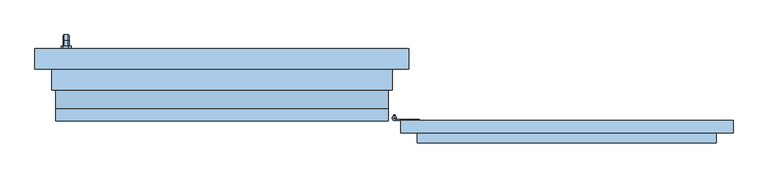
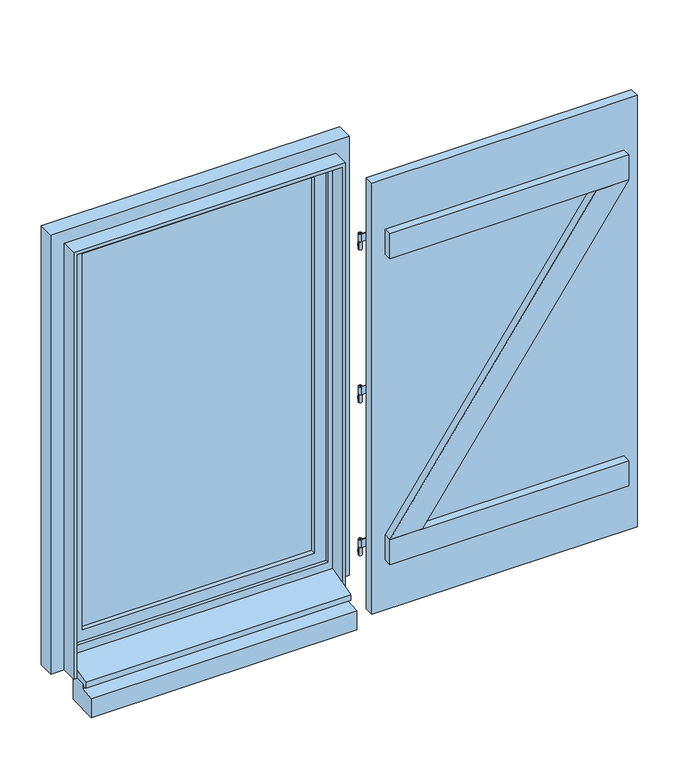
"""IFC4 building model written with IfcOpenShell, lengths in millimetres: window geometry, 1 Vantail droit - Volet et petits bois : 0.80m x 1.35m - Appui Béton."""

import ifcopenshell
import ifcopenshell.guid

model = None  # the IFC model being written
_history = None  # IfcOwnerHistory: only IFC2X3 demands one
_inside = {}  # id of a spatial element -> (the spatial element, [elements in it])
_under = {}  # id of a project, library or spatial element -> (it, [spatial elements below it])
_declared = {}  # id of a project -> (the project, [libraries it declares])
_typed = {}  # id of a type object -> (the type object, [elements of that type])
_made_of = {}  # id of a material, layer set ... -> (it, [elements and type objects made of it])


def new_model(schema):
    """Start an empty IFC model of exactly this schema.

    Asked for "IFC4X3", IfcOpenShell would pick the latest addendum, in which some entities
    have other attributes; the version numbers below select the first issue.
    IFC2X3 requires an IfcOwnerHistory on every rooted entity: one is made here for all.
    """
    global model, _history
    if schema == "IFC4X3":
        model = ifcopenshell.file(schema_version=(4, 3, 0, 0))
    else:
        model = ifcopenshell.file(schema=schema)
    _inside.clear()
    _under.clear()
    _declared.clear()
    _typed.clear()
    _made_of.clear()
    _history = None
    if model.schema == "IFC2X3":
        org = make("IfcOrganization", Name="unknown")
        user = make(
            "IfcPersonAndOrganization",
            ThePerson=make("IfcPerson", FamilyName="unknown"),
            TheOrganization=org,
        )
        app = make(
            "IfcApplication",
            ApplicationDeveloper=org,
            Version="unknown",
            ApplicationFullName="unknown",
            ApplicationIdentifier="unknown",
        )
        _history = make(
            "IfcOwnerHistory",
            OwningUser=user,
            OwningApplication=app,
            ChangeAction="ADDED",
            CreationDate=0,
        )
    return model


def make(cls, **values):
    """One entity of the class cls with the attributes given. An attribute that is None is left unset."""
    return model.create_entity(
        cls, **{name: value for name, value in values.items() if value is not None}
    )


def rooted(cls, **values):
    """An entity with a GlobalId (a new one), such as an element, a storey or a relation."""
    return make(cls, GlobalId=ifcopenshell.guid.new(), OwnerHistory=_history, **values)


def si_unit(unit_type, name, prefix=None):
    """IfcSIUnit, for example si_unit("LENGTHUNIT", "METRE", prefix="MILLI")."""
    return make("IfcSIUnit", UnitType=unit_type, Prefix=prefix, Name=name)


def assignment(units):
    """IfcUnitAssignment: the units of a project."""
    return None if units is None else make("IfcUnitAssignment", Units=units)


def point(xyz):
    """IfcCartesianPoint."""
    return None if xyz is None else make("IfcCartesianPoint", Coordinates=xyz)


def direction(xyz):
    """IfcDirection."""
    return None if xyz is None else make("IfcDirection", DirectionRatios=xyz)


def frame(location, z_axis=None, x_axis=None):
    """IfcAxis2Placement3D, a coordinate frame: its origin and axes. An axis left out is left unset."""
    return make(
        "IfcAxis2Placement3D",
        Location=point(location),
        Axis=direction(z_axis),
        RefDirection=direction(x_axis),
    )


def frame_2d(location, x_axis=None):
    """IfcAxis2Placement2D, a coordinate frame in the plane: its origin and x axis."""
    return make(
        "IfcAxis2Placement2D", Location=point(location), RefDirection=direction(x_axis)
    )


def origin():
    """The frame at (0, 0, 0) with its axes left unset."""
    return frame((0.0, 0.0, 0.0))


def place(relative_to, where):
    """IfcLocalPlacement: puts the frame where relative to a parent placement (None: the world)."""
    return make(
        "IfcLocalPlacement", PlacementRelTo=relative_to, RelativePlacement=where
    )


def context(
    kind, dimensions, precision=None, world=None, true_north=None, identifier=None
):
    """IfcGeometricRepresentationContext, for example the 3D "Model" context."""
    return make(
        "IfcGeometricRepresentationContext",
        ContextIdentifier=identifier,
        ContextType=kind,
        CoordinateSpaceDimension=dimensions,
        Precision=precision,
        WorldCoordinateSystem=world,
        TrueNorth=true_north,
    )


def project(units=None, contexts=None):
    """IfcProject with its units and contexts."""
    return rooted(
        "IfcProject",
        Name="project",
        RepresentationContexts=contexts,
        UnitsInContext=assignment(units),
    )


def spatial(cls, under=None, at=None, **own):
    """A site, building, storey or space (cls), placed at a placement, below another one or the project."""
    s = rooted(cls, ObjectPlacement=at, **own)
    if under is not None:
        _under.setdefault(under.id(), (under, []))[1].append(s)
    return s


def polyline(points):
    """IfcPolyline through the points."""
    return make("IfcPolyline", Points=[point(p) for p in points])


def circle_curve(where, radius):
    """IfcCircle in the frame where."""
    return make("IfcCircle", Position=where, Radius=radius)


def trimmed(basis, trim1, trim2, sense, master):
    """IfcTrimmedCurve: the piece of a basis curve between two trims."""
    return make(
        "IfcTrimmedCurve",
        BasisCurve=basis,
        Trim1=trim1,
        Trim2=trim2,
        SenseAgreement=sense,
        MasterRepresentation=master,
    )


def segment(curve, same_sense, transition):
    """IfcCompositeCurveSegment."""
    return make(
        "IfcCompositeCurveSegment",
        Transition=transition,
        SameSense=same_sense,
        ParentCurve=curve,
    )


def composite_curve(segments, self_intersect=None):
    """IfcCompositeCurve: segments joined end to end."""
    return make("IfcCompositeCurve", Segments=segments, SelfIntersect=self_intersect)


def outline(outer, holes=None, kind="AREA"):
    """IfcArbitraryClosedProfileDef: a profile drawn as a closed curve; with holes, ...WithVoids."""
    if holes is None:
        return make("IfcArbitraryClosedProfileDef", ProfileType=kind, OuterCurve=outer)
    return make(
        "IfcArbitraryProfileDefWithVoids",
        ProfileType=kind,
        OuterCurve=outer,
        InnerCurves=holes,
    )


def extrude(swept, where, along, depth):
    """IfcExtrudedAreaSolid: the profile swept, set in the frame where, extruded along a direction by depth."""
    return make(
        "IfcExtrudedAreaSolid",
        SweptArea=swept,
        Position=where,
        ExtrudedDirection=direction(along),
        Depth=depth,
    )


def faces_of(points, faces, orient=None, outer=None):
    """IfcFace entities. A face is a list of loops; a loop is a list of indices into points, from 0.

    orient and outer hold one flag for each loop. By default every Orientation is true, the
    first loop of a face is its IfcFaceOuterBound and the others are IfcFaceBound.
    """
    made = []
    for i, loops in enumerate(faces):
        bounds = []
        for j, loop in enumerate(loops):
            is_outer = j == 0 if outer is None else outer[i][j]
            bounds.append(
                make(
                    "IfcFaceOuterBound" if is_outer else "IfcFaceBound",
                    Bound=make("IfcPolyLoop", Polygon=[points[k] for k in loop]),
                    Orientation=True if orient is None else orient[i][j],
                )
            )
        made.append(make("IfcFace", Bounds=bounds))
    return made


def faceted_brep(points, faces, orient=None, outer=None, voids=None):
    """IfcFacetedBrep: a solid bounded by flat faces; with voids (closed shells), ...WithVoids."""
    shared = [point(p) for p in points]
    hull = make("IfcClosedShell", CfsFaces=faces_of(shared, faces, orient, outer))
    if voids is None:
        return make("IfcFacetedBrep", Outer=hull)
    return make(
        "IfcFacetedBrepWithVoids",
        Outer=hull,
        Voids=[
            make(cls, CfsFaces=faces_of(shared, fs, o, b)) for cls, fs, o, b in voids
        ],
    )


def shape(context_of_items, identifier, shape_type, items):
    """IfcShapeRepresentation: the items that make up one representation, for example the "Body"."""
    return make(
        "IfcShapeRepresentation",
        ContextOfItems=context_of_items,
        RepresentationIdentifier=identifier,
        RepresentationType=shape_type,
        Items=items,
    )


def source(mapping_origin, context_of_items, identifier, shape_type, items):
    """IfcRepresentationMap: a shape defined once, which mapped items show again and again."""
    return make(
        "IfcRepresentationMap",
        MappingOrigin=mapping_origin,
        MappedRepresentation=shape(context_of_items, identifier, shape_type, items),
    )


def transform(
    local_origin,
    x_axis=None,
    y_axis=None,
    z_axis=None,
    scale=None,
    scale2=None,
    scale3=None,
    uniform=True,
):
    """IfcCartesianTransformationOperator3D, or its non-uniform kind. x_axis, y_axis, z_axis: its Axis1, 2, 3."""
    if uniform:
        return make(
            "IfcCartesianTransformationOperator3D",
            Axis1=direction(x_axis),
            Axis2=direction(y_axis),
            LocalOrigin=point(local_origin),
            Scale=scale,
            Axis3=direction(z_axis),
        )
    return make(
        "IfcCartesianTransformationOperator3DnonUniform",
        Axis1=direction(x_axis),
        Axis2=direction(y_axis),
        LocalOrigin=point(local_origin),
        Scale=scale,
        Axis3=direction(z_axis),
        Scale2=scale2,
        Scale3=scale3,
    )


def mapped(mapping_source, mapping_target):
    """IfcMappedItem: shows the shape of a source again, moved by a transform."""
    return make(
        "IfcMappedItem", MappingSource=mapping_source, MappingTarget=mapping_target
    )


def made_of(thing, what):
    """Note that an element or type object is made of a material, layer set ...; save() writes the relation."""
    if what is not None:
        _made_of.setdefault(what.id(), (what, []))[1].append(thing)
    return thing


def element(
    cls,
    number,
    at=None,
    inside=None,
    cuts=None,
    type_object=None,
    material=None,
    context=None,
    identifier="Body",
    shape_type=None,
    held_by="IfcProductDefinitionShape",
    body=None,
    shapes=None,
    **own,
):
    """One element of the class cls, such as IfcWall. Its Tag is "e" and its number.

    at: its placement. inside: the storey or other place that contains it. cuts: it is an
    opening in that element (IfcRelVoidsElement). A single representation is given by context,
    identifier, shape_type and body (its items); several are given by shapes. held_by: the class
    of the entity that holds the representations. save() writes the other relations.
    """
    e = rooted(cls, Tag="e%d" % number, ObjectPlacement=at, **own)
    if body is not None:
        shapes = [shape(context, identifier, shape_type, body)]
    if shapes is not None:
        e.Representation = make(held_by, Representations=shapes)
    if inside is not None:
        _inside.setdefault(inside.id(), (inside, []))[1].append(e)
    if cuts is not None:
        rooted(
            "IfcRelVoidsElement", RelatingBuildingElement=cuts, RelatedOpeningElement=e
        )
    if type_object is not None:
        _typed.setdefault(type_object.id(), (type_object, []))[1].append(e)
    return made_of(e, material)


def aggregate(whole, parts):
    """IfcRelAggregates: a whole, such as a stair, and the parts it consists of."""
    return rooted("IfcRelAggregates", RelatingObject=whole, RelatedObjects=parts)


def save(model, path):
    """Write the relations noted so far, then the file.

    IfcRelAggregates (storeys below a building ...), IfcRelContainedInSpatialStructure (elements
    in a storey), IfcRelDefinesByType, IfcRelAssociatesMaterial and IfcRelDeclares: one each for
    every whole, place, type object, material and project.
    """
    for whole, parts in _under.values():
        aggregate(whole, parts)
    for where, things in _inside.values():
        rooted(
            "IfcRelContainedInSpatialStructure",
            RelatedElements=things,
            RelatingStructure=where,
        )
    for kind, things in _typed.values():
        rooted("IfcRelDefinesByType", RelatedObjects=things, RelatingType=kind)
    for what, things in _made_of.values():
        rooted("IfcRelAssociatesMaterial", RelatedObjects=things, RelatingMaterial=what)
    for by, libraries in _declared.values():
        rooted("IfcRelDeclares", RelatingContext=by, RelatedDefinitions=libraries)
    model.write(path)


def plane_surface(at):
    """IfcPlane: the flat surface through the origin of the frame at, square to its z axis."""
    return make("IfcPlane", Position=at)


def cylinder_surface(at, radius):
    """IfcCylindricalSurface: all points at the distance radius from the z axis of the frame at."""
    return make("IfcCylindricalSurface", Position=at, Radius=radius)


def advanced_brep(points, edges, surfaces, faces):
    """IfcAdvancedBrep: a solid bounded by faces that lie on surfaces and meet in shared edges.

    An edge is (start, end): straight between two places in points (the first is 0);
    or (start, end, curve); or (start, end, curve, False) where it runs against its curve.
    A face is (place in surfaces, loops), or (place, loops, False) where it looks against
    its surface's normal. A loop lists edges by number (the first is 1), with a minus sign
    where the edge is run from its end to its start. The first loop is the outer one.
    """
    corners = [point(p) for p in points]
    vertices = [make("IfcVertexPoint", VertexGeometry=c) for c in corners]
    made = []
    for start, end, *more in edges:
        made.append(
            make(
                "IfcEdgeCurve",
                EdgeStart=vertices[start],
                EdgeEnd=vertices[end],
                EdgeGeometry=more[0] if more else make("IfcPolyline", Points=[corners[start], corners[end]]),
                SameSense=more[1] if len(more) > 1 else True,
            )
        )
    hull = []
    for where, loops, *sense in faces:
        bounds = []
        for j, loop in enumerate(loops):
            ring = [make("IfcOrientedEdge", EdgeElement=made[abs(k) - 1], Orientation=k > 0) for k in loop]
            bounds.append(
                make(
                    "IfcFaceOuterBound" if j == 0 else "IfcFaceBound",
                    Bound=make("IfcEdgeLoop", EdgeList=ring),
                    Orientation=True,
                )
            )
        hull.append(make("IfcAdvancedFace", Bounds=bounds, FaceSurface=surfaces[where], SameSense=sense[0] if sense else True))
    return make("IfcAdvancedBrep", Outer=make("IfcClosedShell", CfsFaces=hull))


def window_595b25a0(model_context):
    return source(origin(), model_context, "Body", "SolidModel", [
        extrude(outline(polyline([(1230.0, -93.0), (1230.0, -123.0), (430.0, -123.0), (430.0, -93.0), (1230.0, -93.0)])), frame((0.0, 0.0, 775.0), z_axis=(0.0, 0.0, 1.0), x_axis=(1.0, 0.0, 0.0)), (0.0, 0.0, 1.0), 1375.0),
        advanced_brep(
        [(410.0, -88.0, 975.0), (420.0, -88.0, 975.0), (410.0, -88.0, 950.0), (420.0, -88.0, 950.0), (417.0, -83.4174243, 955.0), (417.0, -83.4174243, 965.0), (413.0, -83.4174243, 965.0), (413.0, -83.4174243, 955.0), (413.0, -80.0, 965.0), (417.0, -80.0, 965.0), (417.0, -80.0, 955.0), (413.0, -80.0, 955.0)],
        [
            (0, 1, circle_curve(frame((415.0, -88.0, 975.0), z_axis=(0.0, 0.0, 1.0), x_axis=(1.0, 0.0, 0.0)), 5.0)),
            (1, 0, circle_curve(frame((415.0, -88.0, 975.0), z_axis=(0.0, 0.0, 1.0), x_axis=(1.0, 0.0, 0.0)), 5.0)),
            (2, 3, circle_curve(frame((415.0, -88.0, 950.0), z_axis=(0.0, 0.0, -1.0), x_axis=(1.0, 0.0, 0.0)), 5.0)),
            (3, 2, circle_curve(frame((415.0, -88.0, 950.0), z_axis=(0.0, 0.0, -1.0), x_axis=(1.0, 0.0, 0.0)), 5.0)),
            (1, 3),
            (2, 0),
            (4, 5),
            (5, 6, circle_curve(frame((415.0, -88.0, 965.0), z_axis=(0.0, 0.0, 1.0), x_axis=(1.0, 0.0, 0.0)), 5.0)),
            (6, 7),
            (7, 4, circle_curve(frame((415.0, -88.0, 955.0), z_axis=(0.0, 0.0, -1.0), x_axis=(1.0, 0.0, 0.0)), 5.0)),
            (8, 6),
            (5, 9),
            (9, 8),
            (10, 4),
            (7, 11),
            (11, 10),
            (10, 9),
            (8, 11),
        ],
        [
            plane_surface(frame((420.0, -88.0, 975.0), z_axis=(0.0, 0.0, 1.0), x_axis=(0.0, -1.0, 0.0))),
            plane_surface(frame((420.0, -88.0, 950.0), z_axis=(0.0, 0.0, -1.0), x_axis=(0.0, 1.0, 0.0))),
            cylinder_surface(frame((415.0, -88.0, 950.0), z_axis=(0.0, 0.0, 1.0), x_axis=(1.0, 0.0, 0.0)), 5.0),
            plane_surface(frame((417.0, -80.0, 965.0), z_axis=(0.0, 0.0, 1.0), x_axis=(0.0, -1.0, 0.0))),
            plane_surface(frame((417.0, -80.0, 955.0), z_axis=(0.0, 0.0, -1.0), x_axis=(0.0, 1.0, 0.0))),
            plane_surface(frame((417.0, -80.0, 965.0), z_axis=(1.0, 0.0, 0.0), x_axis=(0.0, 0.0, -1.0))),
            plane_surface(frame((413.0, -85.0, 965.0), z_axis=(-1.0, 0.0, 0.0), x_axis=(0.0, 0.0, -1.0))),
            plane_surface(frame((413.0, -80.0, 965.0), z_axis=(0.0, 1.0, 0.0), x_axis=(0.0, 0.0, -1.0))),
        ],
        [
            (0, [[1, 2]]),
            (1, [[3, 4]]),
            (2, [[5, -3, 6, -2], [7, 8, 9, 10]]),
            (2, [[-6, -4, -5, -1]]),
            (3, [[11, -8, 12, 13]]),
            (4, [[14, -10, 15, 16]]),
            (5, [[-12, -7, -14, 17]]),
            (6, [[-15, -9, -11, 18]]),
            (7, [[-17, -16, -18, -13]]),
        ],
    ),
        extrude(outline(composite_curve([segment(trimmed(circle_curve(frame_2d((415.0, -88.0)), 5.0), [point((415.0, -93.0))], [point((420.0, -88.0))], False, "CARTESIAN"), True, "CONTINUOUS"), segment(polyline([(420.0, -88.0), (417.5, -88.0)]), True, "CONTINUOUS"), segment(trimmed(circle_curve(frame_2d((415.0, -88.0)), 2.5), [point((417.5, -88.0))], [point((415.0, -90.5))], True, "CARTESIAN"), True, "CONTINUOUS"), segment(polyline([(415.0, -90.5), (474.3092325, -90.5), (474.3092325, -93.0), (415.0, -93.0)]), True, "CONTINUOUS")], self_intersect=False)), frame((0.0, 0.0, 975.0), z_axis=(0.0, 0.0, 1.0), x_axis=(1.0, 0.0, 0.0)), (0.0, 0.0, 1.0), 25.0),
        extrude(outline(composite_curve([segment(trimmed(circle_curve(frame_2d((415.0, -88.0)), 2.5), [point((412.5, -88.0))], [point((417.5, -88.0))], False, "CARTESIAN"), True, "CONTINUOUS"), segment(trimmed(circle_curve(frame_2d((415.0, -88.0)), 2.5), [point((417.5, -88.0))], [point((412.5, -88.0))], False, "CARTESIAN"), True, "CONTINUOUS")], self_intersect=False)), frame((0.0, 0.0, 975.0), z_axis=(0.0, 0.0, 1.0), x_axis=(1.0, 0.0, 0.0)), (0.0, 0.0, 1.0), 25.0),
        advanced_brep(
        [(410.0, -88.0, 1950.0), (420.0, -88.0, 1950.0), (410.0, -88.0, 1925.0), (420.0, -88.0, 1925.0), (413.0, -83.4174243, 1940.0), (413.0, -83.4174243, 1930.0), (417.0, -83.4174243, 1930.0), (417.0, -83.4174243, 1940.0), (413.0, -80.0, 1940.0), (417.0, -80.0, 1940.0), (413.0, -80.0, 1930.0), (417.0, -80.0, 1930.0)],
        [
            (0, 1, circle_curve(frame((415.0, -88.0, 1950.0), z_axis=(0.0, 0.0, 1.0), x_axis=(1.0, 0.0, 0.0)), 5.0)),
            (1, 0, circle_curve(frame((415.0, -88.0, 1950.0), z_axis=(0.0, 0.0, 1.0), x_axis=(1.0, 0.0, 0.0)), 5.0)),
            (2, 3, circle_curve(frame((415.0, -88.0, 1925.0), z_axis=(0.0, 0.0, -1.0), x_axis=(1.0, 0.0, 0.0)), 5.0)),
            (3, 2, circle_curve(frame((415.0, -88.0, 1925.0), z_axis=(0.0, 0.0, -1.0), x_axis=(1.0, 0.0, 0.0)), 5.0)),
            (1, 3),
            (2, 0),
            (4, 5),
            (5, 6, circle_curve(frame((415.0, -88.0, 1930.0), z_axis=(0.0, 0.0, -1.0), x_axis=(1.0, 0.0, 0.0)), 5.0)),
            (6, 7),
            (7, 4, circle_curve(frame((415.0, -88.0, 1940.0), z_axis=(0.0, 0.0, 1.0), x_axis=(1.0, 0.0, 0.0)), 5.0)),
            (8, 4),
            (7, 9),
            (9, 8),
            (10, 11),
            (11, 6),
            (5, 10),
            (9, 11),
            (10, 8),
        ],
        [
            plane_surface(frame((420.0, -88.0, 1950.0), z_axis=(0.0, 0.0, 1.0), x_axis=(0.0, -1.0, 0.0))),
            plane_surface(frame((420.0, -88.0, 1925.0), z_axis=(0.0, 0.0, -1.0), x_axis=(0.0, 1.0, 0.0))),
            cylinder_surface(frame((415.0, -88.0, 1925.0), z_axis=(0.0, 0.0, 1.0), x_axis=(1.0, 0.0, 0.0)), 5.0),
            plane_surface(frame((413.0, -80.0, 1940.0), z_axis=(0.0, 0.0, 1.0), x_axis=(1.0, 0.0, 0.0))),
            plane_surface(frame((413.0, -80.0, 1930.0), z_axis=(0.0, 0.0, -1.0), x_axis=(-1.0, 0.0, 0.0))),
            plane_surface(frame((413.0, -80.0, 1940.0), z_axis=(0.0, 1.0, 0.0), x_axis=(0.0, 0.0, -1.0))),
            plane_surface(frame((417.0, -80.0, 1940.0), z_axis=(1.0, 0.0, 0.0), x_axis=(0.0, 0.0, -1.0))),
            plane_surface(frame((413.0, -83.4174243, 1940.0), z_axis=(-1.0, 0.0, 0.0), x_axis=(0.0, 0.0, -1.0))),
        ],
        [
            (0, [[1, 2]]),
            (1, [[3, 4]]),
            (2, [[5, -3, 6, -2], [7, 8, 9, 10]]),
            (2, [[-6, -4, -5, -1]]),
            (3, [[11, -10, 12, 13]]),
            (4, [[14, 15, -8, 16]]),
            (5, [[17, -14, 18, -13]]),
            (6, [[-9, -15, -17, -12]]),
            (7, [[-18, -16, -7, -11]]),
        ],
    ),
        extrude(outline(polyline([(413.0, -80.0), (417.0, -80.0), (417.0, -83.4174243), (413.0, -83.4174243), (413.0, -80.0)])), frame((0.0, 0.0, 1442.5), z_axis=(0.0, 0.0, 1.0), x_axis=(1.0, 0.0, 0.0)), (0.0, 0.0, 1.0), 10.0),
        extrude(outline(composite_curve([segment(trimmed(circle_curve(frame_2d((415.0, -88.0)), 5.0), [point((415.0, -93.0))], [point((420.0, -88.0))], False, "CARTESIAN"), True, "CONTINUOUS"), segment(polyline([(420.0, -88.0), (417.5, -88.0)]), True, "CONTINUOUS"), segment(trimmed(circle_curve(frame_2d((415.0, -88.0)), 2.5), [point((417.5, -88.0))], [point((412.5, -88.0))], True, "CARTESIAN"), True, "CONTINUOUS"), segment(trimmed(circle_curve(frame_2d((415.0, -88.0)), 2.5), [point((412.5, -88.0))], [point((415.0, -90.5))], True, "CARTESIAN"), True, "CONTINUOUS"), segment(polyline([(415.0, -90.5), (474.3092325, -90.5), (474.3092325, -93.0), (415.0, -93.0)]), True, "CONTINUOUS")], self_intersect=False)), frame((0.0, 0.0, 1462.5), z_axis=(0.0, 0.0, 1.0), x_axis=(1.0, 0.0, 0.0)), (0.0, 0.0, 1.0), 25.0),
        extrude(outline(composite_curve([segment(trimmed(circle_curve(frame_2d((415.0, -88.0)), 2.5), [point((412.5, -88.0))], [point((417.5, -88.0))], False, "CARTESIAN"), True, "CONTINUOUS"), segment(trimmed(circle_curve(frame_2d((415.0, -88.0)), 2.5), [point((417.5, -88.0))], [point((412.5, -88.0))], False, "CARTESIAN"), True, "CONTINUOUS")], self_intersect=False)), frame((0.0, 0.0, 1462.5), z_axis=(0.0, 0.0, 1.0), x_axis=(1.0, 0.0, 0.0)), (0.0, 0.0, 1.0), 25.0),
        extrude(outline(composite_curve([segment(trimmed(circle_curve(frame_2d((415.0, -88.0)), 5.0), [point((410.0, -88.0))], [point((420.0, -88.0))], False, "CARTESIAN"), True, "CONTINUOUS"), segment(trimmed(circle_curve(frame_2d((415.0, -88.0)), 5.0), [point((420.0, -88.0))], [point((410.0, -88.0))], False, "CARTESIAN"), True, "CONTINUOUS")], self_intersect=False)), frame((0.0, 0.0, 1437.5), z_axis=(0.0, 0.0, 1.0), x_axis=(1.0, 0.0, 0.0)), (0.0, 0.0, 1.0), 25.0),
        extrude(outline(composite_curve([segment(trimmed(circle_curve(frame_2d((415.0, -88.0)), 5.0), [point((415.0, -93.0))], [point((420.0, -88.0))], False, "CARTESIAN"), True, "CONTINUOUS"), segment(polyline([(420.0, -88.0), (417.5, -88.0)]), True, "CONTINUOUS"), segment(trimmed(circle_curve(frame_2d((415.0, -88.0)), 2.5), [point((417.5, -88.0))], [point((415.0, -90.5))], True, "CARTESIAN"), True, "CONTINUOUS"), segment(polyline([(415.0, -90.5), (474.3092325, -90.5), (474.3092325, -93.0), (415.0, -93.0)]), True, "CONTINUOUS")], self_intersect=False)), frame((0.0, 0.0, 1950.0), z_axis=(0.0, 0.0, 1.0), x_axis=(1.0, 0.0, 0.0)), (0.0, 0.0, 1.0), 25.0),
        extrude(outline(composite_curve([segment(trimmed(circle_curve(frame_2d((415.0, -88.0)), 2.5), [point((412.5, -88.0))], [point((417.5, -88.0))], False, "CARTESIAN"), True, "CONTINUOUS"), segment(trimmed(circle_curve(frame_2d((415.0, -88.0)), 2.5), [point((417.5, -88.0))], [point((412.5, -88.0))], False, "CARTESIAN"), True, "CONTINUOUS")], self_intersect=False)), frame((0.0, 0.0, 1950.0), z_axis=(0.0, 0.0, 1.0), x_axis=(1.0, 0.0, 0.0)), (0.0, 0.0, 1.0), 25.0),
        extrude(outline(polyline([(1910.0, 1190.0), (1910.0, 1092.5496543), (1015.0, 470.0007252), (1015.0, 567.4510709), (1910.0, 1190.0)])), frame((0.0, -148.0, 0.0), z_axis=(0.0, 1.0, 0.0), x_axis=(0.0, 0.0, 1.0)), (0.0, 0.0, 1.0), 25.0),
        extrude(outline(polyline([(470.0, -148.0), (470.0, -123.0), (1190.0, -123.0), (1190.0, -148.0), (470.0, -148.0)])), frame((0.0, 0.0, 1910.0), z_axis=(0.0, 0.0, 1.0), x_axis=(1.0, 0.0, 0.0)), (0.0, 0.0, 1.0), 80.0),
        extrude(outline(polyline([(470.0, -148.0), (470.0, -123.0), (1190.0, -123.0), (1190.0, -148.0), (470.0, -148.0)])), frame((0.0, 0.0, 935.0), z_axis=(0.0, 0.0, 1.0), x_axis=(1.0, 0.0, 0.0)), (0.0, 0.0, 1.0), 80.0),
        faceted_brep([(-369.3539903, 86.0, 1422.0339292), (-380.6460097, 86.0, 1422.0339292), (-382.0339292, 86.0, 1420.6460097), (-382.0339292, 86.0, 1409.3323012), (-380.6676988, 86.0, 1407.9660708), (-369.3323012, 86.0, 1407.9660708), (-367.9660708, 86.0, 1409.3323012), (-367.9660708, 86.0, 1420.6460097), (-367.9660708, 98.3386538, 1420.6460097), (-369.3539903, 98.9135489, 1422.0339292), (-367.9660708, 93.6523623, 1409.3323012), (-367.9660708, 100.3323012, 1402.6523623), (-367.9660708, 100.3323012, 1320.0), (-367.9660708, 111.6460097, 1320.0), (-367.9660708, 111.6460097, 1407.3386538), (-369.3323012, 93.0864511, 1407.9660708), (-380.6676988, 93.0864511, 1407.9660708), (-382.0339292, 93.6523623, 1409.3323012), (-382.0339292, 98.3386538, 1420.6460097), (-382.0339292, 111.6460097, 1407.3386538), (-382.0339292, 111.6460097, 1320.0), (-382.0339292, 100.3323012, 1320.0), (-382.0339292, 100.3323012, 1402.6523623), (-380.6460097, 98.9135489, 1422.0339292), (-369.3539903, 113.0339292, 1407.9135489), (-369.3323012, 98.9660708, 1402.0864511), (-380.6676988, 98.9660708, 1402.0864511), (-380.6460097, 113.0339292, 1407.9135489), (-369.3539903, 113.0339292, 1320.0), (-369.3323012, 98.9660708, 1320.0), (-380.6676988, 98.9660708, 1320.0), (-380.6460097, 113.0339292, 1320.0)], [[[0, 1, 2, 3, 4, 5, 6, 7]], [[7, 8, 9, 0]], [[6, 10, 11, 12, 13, 14, 8, 7]], [[5, 15, 10, 6]], [[4, 16, 15, 5]], [[3, 17, 16, 4]], [[2, 18, 19, 20, 21, 22, 17, 3]], [[1, 23, 18, 2]], [[0, 9, 23, 1]], [[8, 14, 24, 9]], [[15, 25, 11, 10]], [[16, 26, 25, 15]], [[17, 22, 26, 16]], [[23, 27, 19, 18]], [[9, 24, 27, 23]], [[28, 13, 12, 29, 30, 21, 20, 31]], [[14, 13, 28, 24]], [[25, 29, 12, 11]], [[26, 30, 29, 25]], [[22, 21, 30, 26]], [[27, 31, 20, 19]], [[24, 28, 31, 27]]]),
        extrude(outline(polyline([(1440.0, -368.0), (1440.0, -382.0), (1435.0, -387.0), (1365.0, -387.0), (1360.0, -382.0), (1360.0, -368.0), (1365.0, -363.0), (1435.0, -363.0), (1440.0, -368.0)])), frame((0.0, 80.0, 0.0), z_axis=(0.0, 1.0, 0.0), x_axis=(0.0, 0.0, 1.0)), (0.0, 0.0, 1.0), 6.0),
        extrude(outline(polyline([(0.0, 800.0), (0.0, 720.0), (-95.0, 720.0), (-95.0, 780.2703094), (-50.0, 785.0), (-50.0, 800.0), (0.0, 800.0)])), frame((-400.0, 0.0, 0.0), z_axis=(1.0, 0.0, 0.0), x_axis=(0.0, 1.0, 0.0)), (0.0, 0.0, 1.0), 800.0),
        extrude(outline(polyline([(-350.0, 54.0), (-350.0, 66.0), (350.0, 66.0), (350.0, 54.0), (-350.0, 54.0)])), frame((0.0, 0.0, 900.0), z_axis=(0.0, 0.0, 1.0), x_axis=(1.0, 0.0, 0.0)), (0.0, 0.0, 1.0), 1200.0),
        extrude(outline(polyline([(850.0, -400.0), (850.0, 400.0), (2150.0, 400.0), (2150.0, -400.0), (850.0, -400.0)]), holes=[polyline([(900.0, 350.0), (900.0, -350.0), (2100.0, -350.0), (2100.0, 350.0), (900.0, 350.0)])]), frame((0.0, 40.0, 0.0), z_axis=(0.0, 1.0, 0.0), x_axis=(0.0, 0.0, 1.0)), (0.0, 0.0, 1.0), 40.0),
        faceted_brep([(-450.0, 80.0, 800.0), (450.0, 80.0, 800.0), (450.0, 30.0, 800.0), (400.0, 30.0, 800.0), (400.0, -55.0, 800.0), (-400.0, -55.0, 800.0), (-400.0, 30.0, 800.0), (-450.0, 30.0, 800.0), (-450.0, 30.0, 2200.0), (-450.0, 80.0, 2200.0), (-400.0, 30.0, 839.3761425), (400.0, 30.0, 839.3761425), (450.0, 30.0, 2200.0), (-385.0, 30.0, 2135.0), (385.0, 30.0, 2135.0), (385.0, 30.0, 865.0), (-385.0, 30.0, 865.0), (-400.0, -55.0, 795.0), (-400.0, -65.0, 795.0), (-400.0, -65.0, 813.9209692), (400.0, -55.0, 795.0), (400.0, -65.0, 813.9209692), (400.0, -65.0, 795.0), (450.0, 80.0, 2200.0), (400.0, 80.0, 2150.0), (-400.0, 80.0, 2150.0), (-400.0, 80.0, 850.0), (400.0, 80.0, 850.0), (-385.0, 40.0, 865.0), (-385.0, 40.0, 2135.0), (385.0, 40.0, 865.0), (385.0, 40.0, 2135.0), (400.0, 40.0, 2150.0), (400.0, 40.0, 850.0), (-400.0, 40.0, 850.0), (-400.0, 40.0, 2150.0)], [[[0, 1, 2, 3, 4, 5, 6, 7]], [[7, 8, 9, 0]], [[7, 6, 10, 11, 3, 2, 12, 8], [13, 14, 15, 16]], [[10, 6, 5, 17, 18, 19]], [[5, 4, 20, 17]], [[4, 3, 11, 21, 22, 20]], [[2, 1, 23, 12]], [[0, 9, 23, 1], [24, 25, 26, 27]], [[13, 16, 28, 29]], [[28, 16, 15, 30]], [[31, 30, 15, 14]], [[19, 21, 11, 10]], [[32, 33, 34, 35], [29, 28, 30, 31]], [[34, 26, 25, 35]], [[26, 34, 33, 27]], [[24, 27, 33, 32]], [[18, 22, 21, 19]], [[17, 20, 22, 18]], [[13, 29, 31, 14]], [[35, 25, 24, 32]], [[12, 23, 9, 8]]]),
        extrude(outline(polyline([(800.0, -400.0), (2150.0, -400.0), (2150.0, 400.0), (800.0, 400.0), (800.0, 410.0), (2160.0, 410.0), (2160.0, -410.0), (800.0, -410.0), (800.0, -400.0)])), frame((0.0, -20.0, 0.0), z_axis=(0.0, 1.0, 0.0), x_axis=(0.0, 0.0, 1.0)), (0.0, 0.0, 1.0), 50.0),
    ])


if __name__ == "__main__":
    model = new_model("IFC4")
    model_context = context("Model", 3, world=origin())
    ifc_project = project(units=[si_unit("LENGTHUNIT", "METRE", prefix="MILLI")], contexts=[model_context])
    site = spatial("IfcSite", under=ifc_project)
    building = spatial("IfcBuilding", under=site)
    placement = place(None, origin())
    window_shape = window_595b25a0(model_context)
    element("IfcWindow", 1, ObjectType="1 Vantail droit - Volet et petits bois : 0.80m x 1.35m - Appui Béton", at=placement, inside=building, context=model_context, shape_type="MappedRepresentation", body=[
        mapped(window_shape, transform((0.0, 0.0, 0.0), x_axis=(1.0, 0.0, 0.0), y_axis=(0.0, 1.0, 0.0), z_axis=(0.0, 0.0, 1.0))),
    ])
    save(model, "model.ifc")
